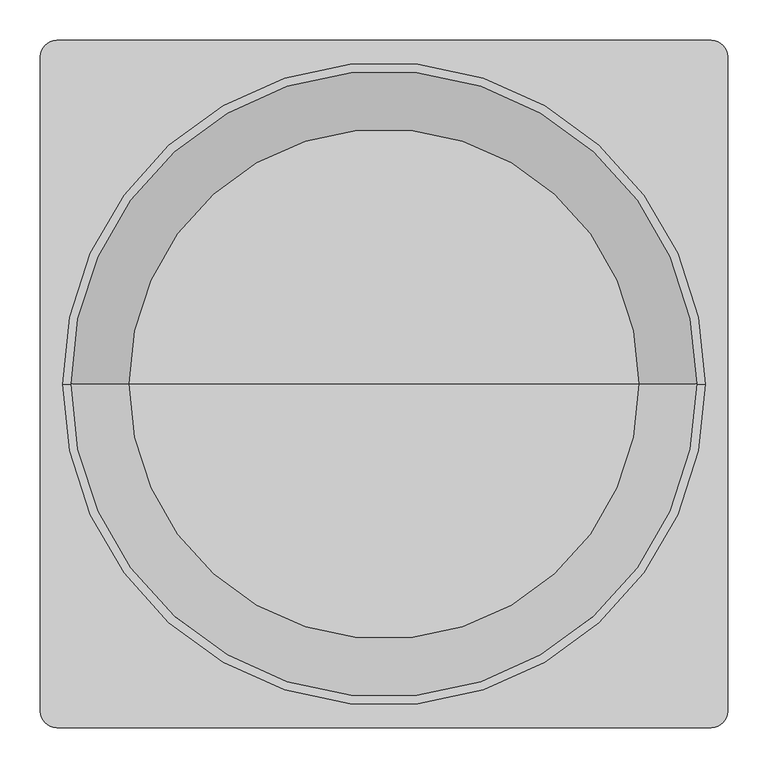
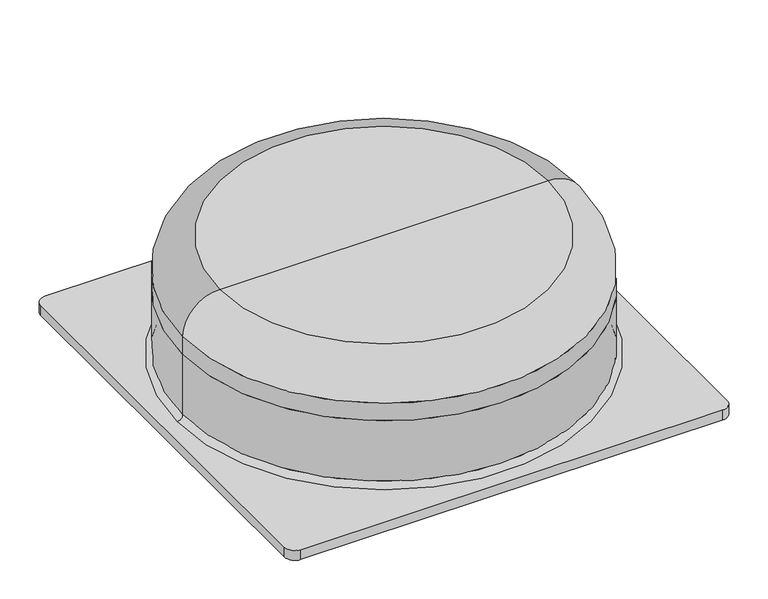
"""IFC4 building model written with IfcOpenShell, lengths in millimetres: unitary equipment geometry, VE-Wentylator-ParaForma-Harmann-WAF-Nawiewny : 710/6/8/16800T."""

from ifc_helpers import new_model, si_unit, point, frame, frame_2d, origin, origin_with_axes, origin_2d, place, context, project, spatial, polyline, circle_curve, ellipse_curve, trimmed, segment, composite_curve, outline, extrude, source, transform, mapped, element, save
from ifc_brep_helpers import plane_surface, cylinder_surface, revolved_surface, advanced_brep


def unitary_equipment_28228eef(model_context):
    return source(origin(), model_context, "Body", "SolidModel", [
        advanced_brep(
        [(387.0, 0.0, 153.3), (0.0, 0.0, 153.3), (-387.0, 0.0, 153.3), (387.0, 0.0, 188.8666667), (-387.0, 0.0, 188.8666667), (315.8666667, 0.0, 260.0), (-315.8666667, 0.0, 260.0), (0.0, 0.0, 260.0)],
        [
            (0, 1),
            (1, 2),
            (2, 0, circle_curve(frame((0.0, 0.0, 153.3), z_axis=(0.0, 0.0, -1.0), x_axis=(-1.0000000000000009, 0.0, 0.0)), 387.0)),
            (0, 2, circle_curve(frame((0.0, 0.0, 153.3), z_axis=(0.0, 0.0, -1.0), x_axis=(-1.0000000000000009, 0.0, 0.0)), 387.0)),
            (3, 0),
            (2, 4),
            (4, 3, circle_curve(frame((0.0, 0.0, 188.8666667), z_axis=(0.0, 0.0, -1.0), x_axis=(-1.0000000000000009, 0.0, 0.0)), 387.0)),
            (3, 4, circle_curve(frame((0.0, 0.0, 188.8666667), z_axis=(0.0, 0.0, -1.0), x_axis=(-1.0000000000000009, 0.0, 0.0)), 387.0)),
            (5, 3, circle_curve(frame((315.8666667, 0.0, 188.8666667), z_axis=(0.0, 1.0000000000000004, 0.0), x_axis=(0.0, 0.0, -1.0000000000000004)), 71.1333333)),
            (4, 6, circle_curve(frame((-315.8666667, 0.0, 188.8666667), z_axis=(0.0, 1.0000000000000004, 0.0), x_axis=(0.0, 0.0, -1.0000000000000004)), 71.1333333)),
            (6, 5, circle_curve(frame((0.0, 0.0, 260.0), z_axis=(0.0, 0.0, -1.0), x_axis=(-1.0000000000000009, 0.0, 0.0)), 315.8666667)),
            (5, 6, circle_curve(frame((0.0, 0.0, 260.0), z_axis=(0.0, 0.0, -1.0), x_axis=(-1.0000000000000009, 0.0, 0.0)), 315.8666667)),
            (7, 5),
            (6, 7),
        ],
        [
            plane_surface(frame((0.0, 0.0, 153.3), z_axis=(0.0, 0.0, -1.0), x_axis=(-1.0, 0.0, 0.0))),
            cylinder_surface(frame((0.0, 0.0, 153.3), z_axis=(0.0, 0.0, 1.0000000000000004), x_axis=(-1.0000000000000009, 0.0, 0.0)), 387.0),
            revolved_surface(trimmed(ellipse_curve(frame((-315.8666667, 0.0, 188.8666667), z_axis=(0.0, 1.0000000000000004, 0.0), x_axis=(0.0, 0.0, -1.0000000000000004)), 71.1333333, 71.1333333), [point((-387.0, 0.0, 188.8666667))], [point((-315.8666667, 0.0, 260.0))], True, "CARTESIAN"), (0.0, 0.0, 153.3), (0.0, 0.0, 1.0000000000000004)),
            plane_surface(frame((0.0, 0.0, 260.0), z_axis=(0.0, 0.0, 1.0), x_axis=(-1.0, 0.0, 0.0))),
        ],
        [
            (0, [[1, 2, 3]]),
            (0, [[-2, -1, 4]]),
            (1, [[5, -3, 6, 7]]),
            (1, [[-6, -4, -5, 8]]),
            (2, [[9, -7, 10, 11]]),
            (2, [[-10, -8, -9, 12]]),
            (3, [[13, -11, 14]]),
            (3, [[-14, -12, -13]]),
        ],
    ),
        advanced_brep(
        [(0.0, 0.0, 153.3), (387.0, 0.0, 153.3), (-387.0, 0.0, 153.3), (397.5, 0.0, 20.0), (0.0, 0.0, 20.0), (-397.5, 0.0, 20.0), (387.0, 0.0, 30.5), (-387.0, 0.0, 30.5)],
        [
            (0, 1),
            (1, 2, circle_curve(frame((0.0, 0.0, 153.3), z_axis=(0.0, 0.0, 1.0), x_axis=(-1.0000000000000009, 0.0, 0.0)), 387.0)),
            (2, 0),
            (2, 1, circle_curve(frame((0.0, 0.0, 153.3), z_axis=(0.0, 0.0, 1.0), x_axis=(-1.0000000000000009, 0.0, 0.0)), 387.0)),
            (3, 4),
            (4, 5),
            (5, 3, circle_curve(frame((0.0, 0.0, 20.0), z_axis=(0.0, 0.0, -1.0), x_axis=(-1.0000000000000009, 0.0, 0.0)), 397.5)),
            (3, 5, circle_curve(frame((0.0, 0.0, 20.0), z_axis=(0.0, 0.0, -1.0), x_axis=(-1.0000000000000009, 0.0, 0.0)), 397.5)),
            (6, 3, circle_curve(frame((397.5, 0.0, 30.5), z_axis=(0.0, -1.0000000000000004, 0.0), x_axis=(0.0, 0.0, -1.0000000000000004)), 10.5)),
            (5, 7, circle_curve(frame((-397.5, 0.0, 30.5), z_axis=(0.0, -1.0000000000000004, 0.0), x_axis=(0.0, 0.0, -1.0000000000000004)), 10.5)),
            (7, 6, circle_curve(frame((0.0, 0.0, 30.5), z_axis=(0.0, 0.0, -1.0), x_axis=(-1.0000000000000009, 0.0, 0.0)), 387.0)),
            (6, 7, circle_curve(frame((0.0, 0.0, 30.5), z_axis=(0.0, 0.0, -1.0), x_axis=(-1.0000000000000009, 0.0, 0.0)), 387.0)),
            (1, 6),
            (7, 2),
        ],
        [
            plane_surface(frame((0.0, 0.0, 153.3), z_axis=(0.0, 0.0, 1.0), x_axis=(-1.0, 0.0, 0.0))),
            plane_surface(frame((0.0, 0.0, 20.0), z_axis=(0.0, 0.0, -1.0), x_axis=(-1.0, 0.0, 0.0))),
            revolved_surface(trimmed(ellipse_curve(frame((-397.5, 0.0, 30.5), z_axis=(0.0, -1.0000000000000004, 0.0), x_axis=(0.0, 0.0, -1.0000000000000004)), 10.5, 10.5), [point((-397.5, 0.0, 20.0))], [point((-387.0, 0.0, 30.5))], True, "CARTESIAN"), (0.0, 0.0, 153.3), (0.0, 0.0, 1.0000000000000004)),
            cylinder_surface(frame((0.0, 0.0, 153.3), z_axis=(0.0, 0.0, 1.0000000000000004), x_axis=(-1.0000000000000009, 0.0, 0.0)), 387.0),
        ],
        [
            (0, [[1, 2, 3]]),
            (0, [[-3, 4, -1]]),
            (1, [[5, 6, 7]]),
            (1, [[-6, -5, 8]]),
            (2, [[9, -7, 10, 11]]),
            (2, [[-10, -8, -9, 12]]),
            (3, [[13, -11, 14, -2]]),
            (3, [[-14, -12, -13, -4]]),
        ],
    ),
        extrude(outline(composite_curve([segment(trimmed(circle_curve(origin_2d(), 50.0), [point((50.0, 0.0))], [point((-50.0, 0.0))], False, "CARTESIAN"), True, "CONTINUOUS"), segment(trimmed(circle_curve(origin_2d(), 50.0), [point((-50.0, 0.0))], [point((50.0, 0.0))], False, "CARTESIAN"), True, "CONTINUOUS")], self_intersect=False)), frame((0.0, 0.0, -2.0), z_axis=(0.0, 0.0, 1.0), x_axis=(1.0, 0.0, 0.0)), (0.0, 0.0, 1.0), 2.0),
        extrude(outline(composite_curve([segment(trimmed(circle_curve(frame_2d((405.0, 405.0)), 20.0), [point((405.0, 425.0))], [point((425.0, 405.0))], False, "CARTESIAN"), True, "CONTINUOUS"), segment(polyline([(425.0, 405.0), (425.0, -405.0)]), True, "CONTINUOUS"), segment(trimmed(circle_curve(frame_2d((405.0, -405.0)), 20.0), [point((425.0, -405.0))], [point((405.0, -425.0))], False, "CARTESIAN"), True, "CONTINUOUS"), segment(polyline([(405.0, -425.0), (-405.0, -425.0)]), True, "CONTINUOUS"), segment(trimmed(circle_curve(frame_2d((-405.0, -405.0)), 20.0), [point((-405.0, -425.0))], [point((-425.0, -405.0))], False, "CARTESIAN"), True, "CONTINUOUS"), segment(polyline([(-425.0, -405.0), (-425.0, 405.0)]), True, "CONTINUOUS"), segment(trimmed(circle_curve(frame_2d((-405.0, 405.0)), 20.0), [point((-425.0, 405.0))], [point((-405.0, 425.0))], False, "CARTESIAN"), True, "CONTINUOUS"), segment(polyline([(-405.0, 425.0), (405.0, 425.0)]), True, "CONTINUOUS")], self_intersect=False)), origin_with_axes(), (0.0, 0.0, 1.0), 20.0),
    ])


if __name__ == "__main__":
    model = new_model("IFC4")
    model_context = context("Model", 3, world=origin())
    ifc_project = project(units=[si_unit("LENGTHUNIT", "METRE", prefix="MILLI")], contexts=[model_context])
    site = spatial("IfcSite", under=ifc_project)
    building = spatial("IfcBuilding", under=site)
    placement = place(None, origin())
    unitary_equipment_shape = unitary_equipment_28228eef(model_context)
    element("IfcUnitaryEquipment", 1, ObjectType="VE-Wentylator-ParaForma-Harmann-WAF-Nawiewny : 710/6/8/16800T", at=placement, inside=building, context=model_context, shape_type="MappedRepresentation", body=[
        mapped(unitary_equipment_shape, transform((0.0, 0.0, 0.0), x_axis=(1.0, 0.0, 0.0), y_axis=(0.0, 1.0, 0.0), z_axis=(0.0, 0.0, 1.0))),
    ])
    save(model, "model.ifc")
